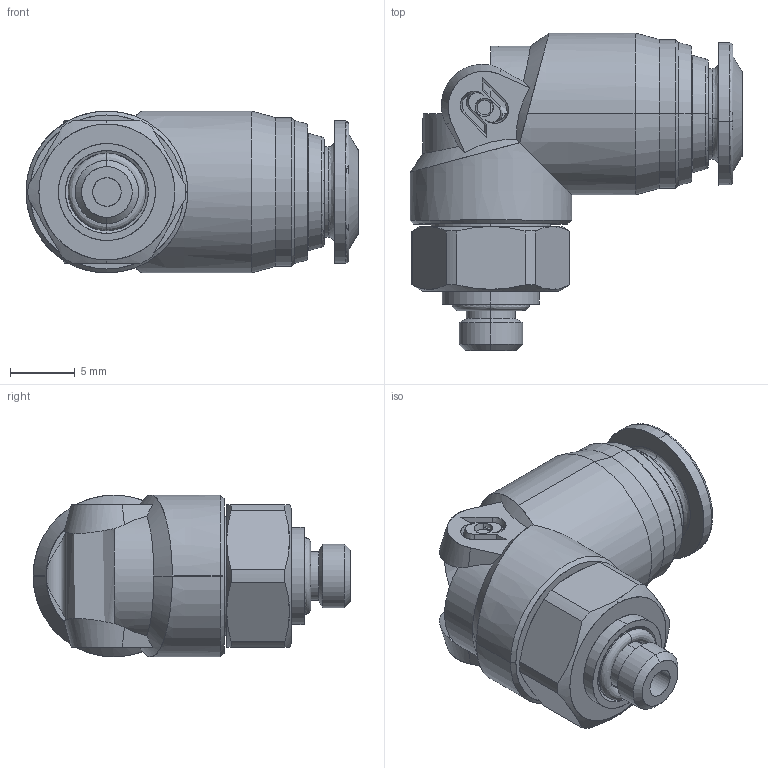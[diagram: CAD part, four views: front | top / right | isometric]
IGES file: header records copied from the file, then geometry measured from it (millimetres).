
Start section: SolidWorks IGES file using analytic representation for surfaces
Global section: file name: K:\Disegni Esecutivi\Serie 57000\ASSIEMI_57000\57116\ASSIEMI_PIENI_57116\5711600005.IGS; native system: SolidWorks 2008; preprocessor: SolidWorks 2008; author: cad02; date: 080207.105254; units: millimetre
Bounding box: 25.65 x 24.55 x 12.5 mm (x, y, z)
Surface area: 1852.3 mm2 (no closed solid volume)
Topology: 0 solids, 0 shells, 157 faces, 2074 edges, 2073 vertices
Faces by surface type: revolution 81, bspline 76
